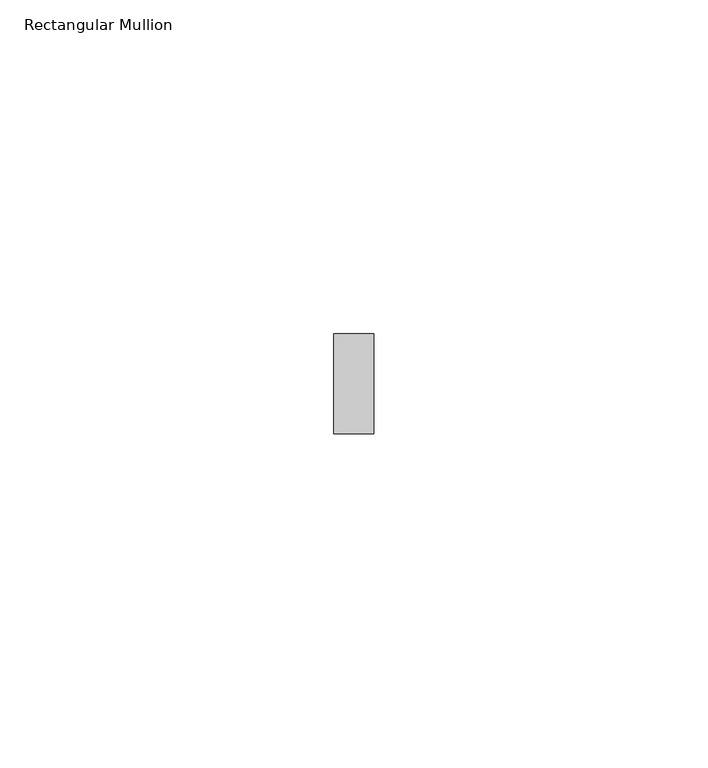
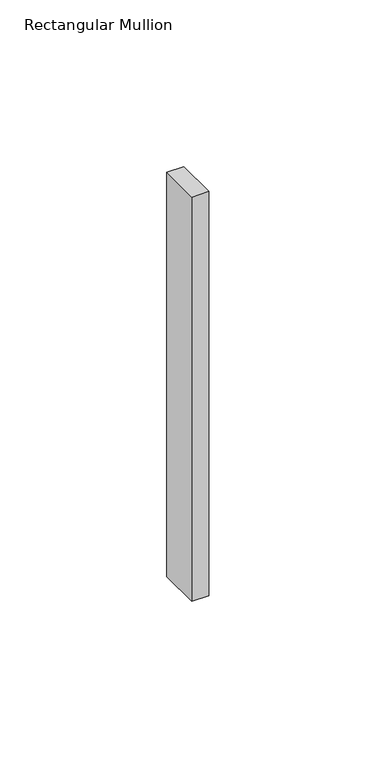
"""IFC4 building model written with IfcOpenShell, lengths in millimetres: member geometry, Rectangular Mullion : ARQ_HERR_15X6mm."""

import ifcopenshell
import ifcopenshell.guid

model = None  # the IFC model being written
_history = None  # IfcOwnerHistory: only IFC2X3 demands one
_inside = {}  # id of a spatial element -> (the spatial element, [elements in it])
_under = {}  # id of a project, library or spatial element -> (it, [spatial elements below it])
_declared = {}  # id of a project -> (the project, [libraries it declares])
_typed = {}  # id of a type object -> (the type object, [elements of that type])
_made_of = {}  # id of a material, layer set ... -> (it, [elements and type objects made of it])


def new_model(schema):
    """Start an empty IFC model of exactly this schema.

    Asked for "IFC4X3", IfcOpenShell would pick the latest addendum, in which some entities
    have other attributes; the version numbers below select the first issue.
    IFC2X3 requires an IfcOwnerHistory on every rooted entity: one is made here for all.
    """
    global model, _history
    if schema == "IFC4X3":
        model = ifcopenshell.file(schema_version=(4, 3, 0, 0))
    else:
        model = ifcopenshell.file(schema=schema)
    _inside.clear()
    _under.clear()
    _declared.clear()
    _typed.clear()
    _made_of.clear()
    _history = None
    if model.schema == "IFC2X3":
        org = make("IfcOrganization", Name="unknown")
        user = make(
            "IfcPersonAndOrganization",
            ThePerson=make("IfcPerson", FamilyName="unknown"),
            TheOrganization=org,
        )
        app = make(
            "IfcApplication",
            ApplicationDeveloper=org,
            Version="unknown",
            ApplicationFullName="unknown",
            ApplicationIdentifier="unknown",
        )
        _history = make(
            "IfcOwnerHistory",
            OwningUser=user,
            OwningApplication=app,
            ChangeAction="ADDED",
            CreationDate=0,
        )
    return model


def make(cls, **values):
    """One entity of the class cls with the attributes given. An attribute that is None is left unset."""
    return model.create_entity(
        cls, **{name: value for name, value in values.items() if value is not None}
    )


def rooted(cls, **values):
    """An entity with a GlobalId (a new one), such as an element, a storey or a relation."""
    return make(cls, GlobalId=ifcopenshell.guid.new(), OwnerHistory=_history, **values)


def si_unit(unit_type, name, prefix=None):
    """IfcSIUnit, for example si_unit("LENGTHUNIT", "METRE", prefix="MILLI")."""
    return make("IfcSIUnit", UnitType=unit_type, Prefix=prefix, Name=name)


def assignment(units):
    """IfcUnitAssignment: the units of a project."""
    return None if units is None else make("IfcUnitAssignment", Units=units)


def point(xyz):
    """IfcCartesianPoint."""
    return None if xyz is None else make("IfcCartesianPoint", Coordinates=xyz)


def direction(xyz):
    """IfcDirection."""
    return None if xyz is None else make("IfcDirection", DirectionRatios=xyz)


def frame(location, z_axis=None, x_axis=None):
    """IfcAxis2Placement3D, a coordinate frame: its origin and axes. An axis left out is left unset."""
    return make(
        "IfcAxis2Placement3D",
        Location=point(location),
        Axis=direction(z_axis),
        RefDirection=direction(x_axis),
    )


def origin():
    """The frame at (0, 0, 0) with its axes left unset."""
    return frame((0.0, 0.0, 0.0))


def place(relative_to, where):
    """IfcLocalPlacement: puts the frame where relative to a parent placement (None: the world)."""
    return make(
        "IfcLocalPlacement", PlacementRelTo=relative_to, RelativePlacement=where
    )


def context(
    kind, dimensions, precision=None, world=None, true_north=None, identifier=None
):
    """IfcGeometricRepresentationContext, for example the 3D "Model" context."""
    return make(
        "IfcGeometricRepresentationContext",
        ContextIdentifier=identifier,
        ContextType=kind,
        CoordinateSpaceDimension=dimensions,
        Precision=precision,
        WorldCoordinateSystem=world,
        TrueNorth=true_north,
    )


def project(units=None, contexts=None):
    """IfcProject with its units and contexts."""
    return rooted(
        "IfcProject",
        Name="project",
        RepresentationContexts=contexts,
        UnitsInContext=assignment(units),
    )


def spatial(cls, under=None, at=None, **own):
    """A site, building, storey or space (cls), placed at a placement, below another one or the project."""
    s = rooted(cls, ObjectPlacement=at, **own)
    if under is not None:
        _under.setdefault(under.id(), (under, []))[1].append(s)
    return s


def polyline(points):
    """IfcPolyline through the points."""
    return make("IfcPolyline", Points=[point(p) for p in points])


def outline(outer, holes=None, kind="AREA"):
    """IfcArbitraryClosedProfileDef: a profile drawn as a closed curve; with holes, ...WithVoids."""
    if holes is None:
        return make("IfcArbitraryClosedProfileDef", ProfileType=kind, OuterCurve=outer)
    return make(
        "IfcArbitraryProfileDefWithVoids",
        ProfileType=kind,
        OuterCurve=outer,
        InnerCurves=holes,
    )


def extrude(swept, where, along, depth):
    """IfcExtrudedAreaSolid: the profile swept, set in the frame where, extruded along a direction by depth."""
    return make(
        "IfcExtrudedAreaSolid",
        SweptArea=swept,
        Position=where,
        ExtrudedDirection=direction(along),
        Depth=depth,
    )


def shape(context_of_items, identifier, shape_type, items):
    """IfcShapeRepresentation: the items that make up one representation, for example the "Body"."""
    return make(
        "IfcShapeRepresentation",
        ContextOfItems=context_of_items,
        RepresentationIdentifier=identifier,
        RepresentationType=shape_type,
        Items=items,
    )


def source(mapping_origin, context_of_items, identifier, shape_type, items):
    """IfcRepresentationMap: a shape defined once, which mapped items show again and again."""
    return make(
        "IfcRepresentationMap",
        MappingOrigin=mapping_origin,
        MappedRepresentation=shape(context_of_items, identifier, shape_type, items),
    )


def transform(
    local_origin,
    x_axis=None,
    y_axis=None,
    z_axis=None,
    scale=None,
    scale2=None,
    scale3=None,
    uniform=True,
):
    """IfcCartesianTransformationOperator3D, or its non-uniform kind. x_axis, y_axis, z_axis: its Axis1, 2, 3."""
    if uniform:
        return make(
            "IfcCartesianTransformationOperator3D",
            Axis1=direction(x_axis),
            Axis2=direction(y_axis),
            LocalOrigin=point(local_origin),
            Scale=scale,
            Axis3=direction(z_axis),
        )
    return make(
        "IfcCartesianTransformationOperator3DnonUniform",
        Axis1=direction(x_axis),
        Axis2=direction(y_axis),
        LocalOrigin=point(local_origin),
        Scale=scale,
        Axis3=direction(z_axis),
        Scale2=scale2,
        Scale3=scale3,
    )


def mapped(mapping_source, mapping_target):
    """IfcMappedItem: shows the shape of a source again, moved by a transform."""
    return make(
        "IfcMappedItem", MappingSource=mapping_source, MappingTarget=mapping_target
    )


def made_of(thing, what):
    """Note that an element or type object is made of a material, layer set ...; save() writes the relation."""
    if what is not None:
        _made_of.setdefault(what.id(), (what, []))[1].append(thing)
    return thing


def element(
    cls,
    number,
    at=None,
    inside=None,
    cuts=None,
    type_object=None,
    material=None,
    context=None,
    identifier="Body",
    shape_type=None,
    held_by="IfcProductDefinitionShape",
    body=None,
    shapes=None,
    **own,
):
    """One element of the class cls, such as IfcWall. Its Tag is "e" and its number.

    at: its placement. inside: the storey or other place that contains it. cuts: it is an
    opening in that element (IfcRelVoidsElement). A single representation is given by context,
    identifier, shape_type and body (its items); several are given by shapes. held_by: the class
    of the entity that holds the representations. save() writes the other relations.
    """
    e = rooted(cls, Tag="e%d" % number, ObjectPlacement=at, **own)
    if body is not None:
        shapes = [shape(context, identifier, shape_type, body)]
    if shapes is not None:
        e.Representation = make(held_by, Representations=shapes)
    if inside is not None:
        _inside.setdefault(inside.id(), (inside, []))[1].append(e)
    if cuts is not None:
        rooted(
            "IfcRelVoidsElement", RelatingBuildingElement=cuts, RelatedOpeningElement=e
        )
    if type_object is not None:
        _typed.setdefault(type_object.id(), (type_object, []))[1].append(e)
    return made_of(e, material)


def aggregate(whole, parts):
    """IfcRelAggregates: a whole, such as a stair, and the parts it consists of."""
    return rooted("IfcRelAggregates", RelatingObject=whole, RelatedObjects=parts)


def save(model, path):
    """Write the relations noted so far, then the file.

    IfcRelAggregates (storeys below a building ...), IfcRelContainedInSpatialStructure (elements
    in a storey), IfcRelDefinesByType, IfcRelAssociatesMaterial and IfcRelDeclares: one each for
    every whole, place, type object, material and project.
    """
    for whole, parts in _under.values():
        aggregate(whole, parts)
    for where, things in _inside.values():
        rooted(
            "IfcRelContainedInSpatialStructure",
            RelatedElements=things,
            RelatingStructure=where,
        )
    for kind, things in _typed.values():
        rooted("IfcRelDefinesByType", RelatedObjects=things, RelatingType=kind)
    for what, things in _made_of.values():
        rooted("IfcRelAssociatesMaterial", RelatedObjects=things, RelatingMaterial=what)
    for by, libraries in _declared.values():
        rooted("IfcRelDeclares", RelatingContext=by, RelatedDefinitions=libraries)
    model.write(path)


def rectangular_mullion_a5abb8e0(model_context):
    return source(origin(), model_context, "Body", "SweptSolid", [
        extrude(outline(polyline([(0.0, 7.5), (0.0, -7.5), (-6.0, -7.5), (-6.0, 7.5), (0.0, 7.5)])), frame((0.0, 0.0, -148.0338449), z_axis=(0.0, 0.0, 1.0), x_axis=(1.0, 0.0, 0.0)), (0.0, 0.0, 1.0), 148.0338449),
    ])


if __name__ == "__main__":
    model = new_model("IFC4")
    model_context = context("Model", 3, world=origin())
    ifc_project = project(units=[si_unit("LENGTHUNIT", "METRE", prefix="MILLI")], contexts=[model_context])
    site = spatial("IfcSite", under=ifc_project)
    building = spatial("IfcBuilding", under=site)
    placement = place(None, origin())
    rectangular_mullion_shape = rectangular_mullion_a5abb8e0(model_context)
    element("IfcMember", 1, ObjectType="Rectangular Mullion : ARQ_HERR_15X6mm", at=placement, inside=building, context=model_context, shape_type="MappedRepresentation", body=[
        mapped(rectangular_mullion_shape, transform((0.0, 0.0, 0.0), x_axis=(1.0, 0.0, 0.0), y_axis=(0.0, 1.0, 0.0), z_axis=(0.0, 0.0, 1.0))),
    ])
    save(model, "model.ifc")
